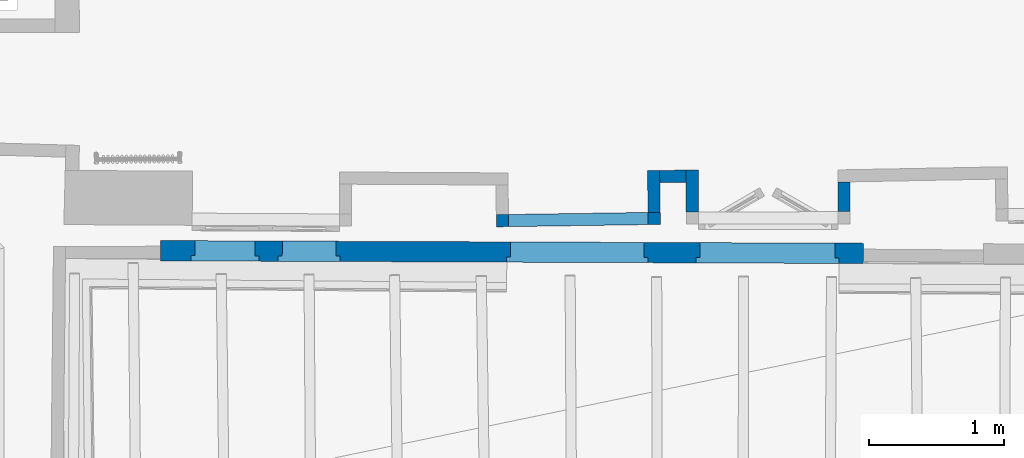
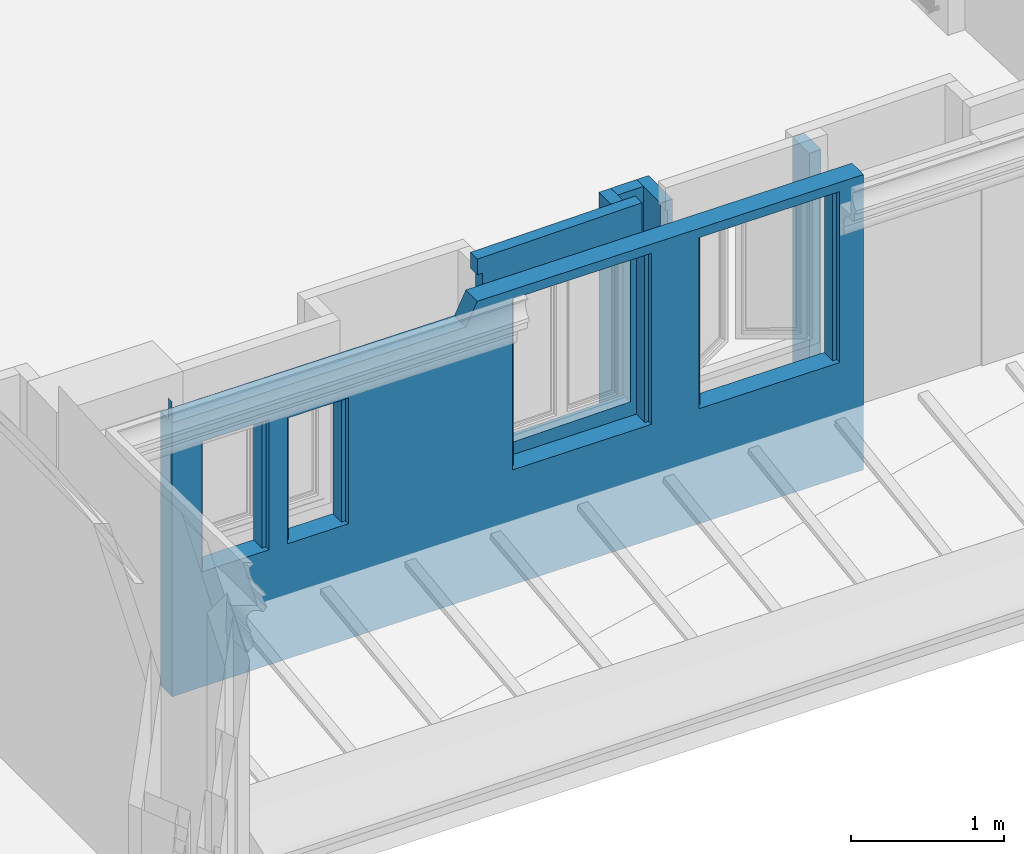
# One storey, part 7 of 72: 6 walls, 5 openings.
"""IFC2X3 building model written with IfcOpenShell, lengths in centimetres."""

from ifc_helpers import new_model, entity, si_unit, converted_unit, direction, frame, origin, origin_with_axes, origin_2d_with_axis, place, context, subcontext, project, spatial, polyline, rectangle, outline, extrude, clip, bounded_halfspace, faceted_brep, shape, material, layer, layer_set, layer_usage, type_object, element, save


model = new_model("IFC2X3")

# Units and contexts
model_context = context("Model", 3, precision=0.0001, world=origin(), true_north=direction((0.225632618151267, 0.974212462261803, 0.0)))
body_context = subcontext(model_context, "Body", "Model", "MODEL_VIEW")
footprint_context = subcontext(model_context, "FootPrint", "Model", "MODEL_VIEW")
profile_context = subcontext(model_context, "Profile", "Model", "MODEL_VIEW")
ifc_project = project(units=[si_unit("LENGTHUNIT", "METRE", prefix="CENTI"), si_unit("AREAUNIT", "SQUARE_METRE", prefix="CENTI"), si_unit("VOLUMEUNIT", "CUBIC_METRE", prefix="CENTI"), converted_unit("PLANEANGLEUNIT", "DEGREE", entity("IfcRatioMeasure", 0.0174532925), si_unit("PLANEANGLEUNIT", "RADIAN"), dimensions=[0, 0, 0, 0, 0, 0, 0])], contexts=[model_context])

# Site, building, storey
site_placement = place(None, origin_with_axes())
site = spatial("IfcSite", under=ifc_project, at=site_placement, Name="Default Site", CompositionType="ELEMENT")
building_placement = place(site_placement, origin_with_axes())
building = spatial("IfcBuilding", under=site, at=building_placement, Name="Default Building", CompositionType="ELEMENT")
storey_placement = place(building_placement, frame((0.0, 0.0, 853.910374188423), z_axis=(0.0, 0.0, 1.0), x_axis=(1.0, 0.0, 0.0)))
storey = spatial("IfcBuildingStorey", under=building, at=storey_placement, Name="Niveau 2", CompositionType="ELEMENT", Elevation=853.910374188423)

# Walls
ifc_material = material(Name="<aucun>")
ifc_layer_1 = layer(ifc_material, 9.0)
ifc_layer_set_1 = layer_set([ifc_layer_1], Name="default")
ifc_layer_usage_1 = layer_usage(ifc_layer_set_1, "AXIS2", "POSITIVE", -4.5)
wall_type_1 = type_object("IfcWallType", Name="default 90", PredefinedType="NOTDEFINED", material=ifc_layer_set_1)
wall_1_placement = place(storey_placement, frame((-226.443798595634, -681.598729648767, 1.4210854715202e-12), z_axis=(0.0, 0.0, 1.0), x_axis=(0.999964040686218, 0.00848040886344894, 0.0)))
element("IfcWallStandardCase", 1, at=wall_1_placement, inside=storey, type_object=wall_type_1, material=ifc_layer_usage_1, Name="Enveloppe 468990", context=body_context, shape_type="SweptSolid", body=[
    extrude(outline(polyline([(9.00018127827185, 4.49999999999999), (9.05730432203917, -4.4999999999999), (28.5450714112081, -4.4999999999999), (28.6000754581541, 4.49999999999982), (9.00018127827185, 4.49999999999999)])), frame((0.0, 0.0, -3.5527136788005e-13), z_axis=(0.0, 0.0, 1.0), x_axis=(1.0, 0.0, 0.0)), (0.0, 0.0, 1.0), 234.999999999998),
])
ifc_layer_usage_2 = layer_usage(ifc_layer_set_1, "AXIS2", "POSITIVE", -4.5)
wall_2_placement = place(storey_placement, frame((-81.1470777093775, -707.520176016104, 1.4210854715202e-12), z_axis=(0.0, 0.0, 1.0), x_axis=(-0.00236902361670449, 0.999997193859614, 0.0)))
element("IfcWallStandardCase", 2, at=wall_2_placement, inside=storey, type_object=wall_type_1, material=ifc_layer_usage_2, Name="Enveloppe 468778", context=body_context, shape_type="SweptSolid", body=[
    extrude(outline(polyline([(21.8595797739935, 4.49999999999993), (8.88178419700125e-14, 4.49999999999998), (0.0, -4.49999999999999), (22.0064733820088, -4.50000000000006), (21.8595797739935, 4.49999999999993)])), origin_with_axes(), (0.0, 0.0, 1.0), 234.999999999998),
])
ifc_layer_usage_3 = layer_usage(ifc_layer_set_1, "AXIS2", "POSITIVE", -4.5)
wall_3_placement = place(storey_placement, frame((-193.309627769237, -707.785892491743, 1.4210854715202e-12), z_axis=(0.0, 0.0, 1.0), x_axis=(-0.00236902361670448, 0.999997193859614, 0.0)))
element("IfcWallStandardCase", 3, at=wall_3_placement, inside=storey, type_object=wall_type_1, material=ifc_layer_usage_3, Name="Enveloppe 468852", context=body_context, shape_type="SweptSolid", body=[
    extrude(outline(polyline([(30.9402887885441, 4.50000000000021), (0.0, 4.49999999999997), (0.0, -4.50000000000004), (30.9952928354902, -4.49999999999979), (30.9402887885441, 4.50000000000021)])), frame((0.0, 0.0, -1.77635683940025e-13), z_axis=(0.0, 0.0, 1.0), x_axis=(1.0, 0.0, 0.0)), (0.0, 0.0, 1.0), 234.999999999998),
])
ifc_layer_usage_4 = layer_usage(ifc_layer_set_1, "AXIS2", "POSITIVE", -4.5)
wall_4_placement = place(storey_placement, frame((-221.389379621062, -717.027773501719, -1.95399252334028e-11), z_axis=(0.0, 0.0, 1.0), x_axis=(-0.0148268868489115, 0.999890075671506, 0.0)))
element("IfcWallStandardCase", 4, at=wall_4_placement, inside=storey, type_object=wall_type_1, material=ifc_layer_usage_4, Name="Enveloppe 468287", context=body_context, shape_type="SweptSolid", body=[
    extrude(outline(polyline([(40.0000000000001, 4.50000000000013), (9.00000000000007, 4.50000000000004), (9.00000000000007, -4.49999999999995), (39.9428769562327, -4.49999999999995), (40.0000000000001, 4.50000000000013)])), frame((0.0, 0.0, 1.98951966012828e-11), z_axis=(0.0, 0.0, 1.0), x_axis=(1.0, 0.0, 0.0)), (0.0, 0.0, 1.0), 234.999999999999),
])

# Wall, opening
ifc_layer_usage_5 = layer_usage(ifc_layer_set_1, "AXIS2", "POSITIVE", -4.5)
wall_5_placement = place(storey_placement, frame((-341.950629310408, -714.315023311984, 1.4210854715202e-12), z_axis=(0.0, 0.0, 1.0), x_axis=(0.999890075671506, 0.0148268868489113, 0.0)))
wall_5 = element("IfcWallStandardCase", 5, at=wall_5_placement, inside=storey, type_object=wall_type_1, material=ifc_layer_usage_5, Name="Enveloppe 158783", context=body_context, shape_type="Clipping", body=[
    clip(extrude(rectangle(XDim=125.007775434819, YDim=9.00000000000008, at=origin_2d_with_axis()), frame((62.5038877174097, 1.77635683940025e-13, -1.06581410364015e-12), z_axis=(0.0, 0.0, 1.0), x_axis=(1.0, 2.62290189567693e-15, 0.0)), (0.0, 0.0, 1.0), 247.500000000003), bounded_halfspace(frame((0.0, 4.50000000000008, 234.999999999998), z_axis=(0.0, 0.0, 1.0), x_axis=(1.0, -6.38551711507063e-15, 0.0)), True, frame((0.0, 4.50000000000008, 234.999999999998), z_axis=(0.0, 0.0, 1.0), x_axis=(1.0, 0.0, 0.0)), polyline([(0.0, -8.99999999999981), (0.0, 0.0), (3.84491063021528, 8.88178419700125e-14), (3.84491063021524, -8.99999999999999), (0.0, -8.99999999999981)]))),
])
opening_1_placement = place(wall_5_placement, frame((12.8449106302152, 0.0, 92.2964592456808), z_axis=(0.0, 0.0, 1.0), x_axis=(1.0, 2.62290189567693e-15, 0.0)))
cartesian_point_1 = entity("IfcCartesianPoint", [0.0, 1.77635683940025e-13, 130.0])
cartesian_point_2 = entity("IfcCartesianPoint", [103.162864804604, 4.50000000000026])
element("IfcOpeningElement", 6, at=opening_1_placement, cuts=wall_5, Name="4294966444_11", ObjectType="Opening", shapes=[
    shape(body_context, "Body", "SweptSolid", [extrude(outline(polyline([(0.0, 130.0), (0.0, 0.0), (103.162864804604, 0.0), (103.162864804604, 130.0), (0.0, 130.0)])), frame((0.0, 14.5, 0.0), z_axis=(0.0, -1.0, 0.0), x_axis=(1.0, 0.0, 0.0)), (0.0, 0.0, 1.0), 29.0)]),
    shape(profile_context, "Profile", "GeometricCurveSet", [entity("IfcGeometricCurveSet", [entity("IfcPolyline", [cartesian_point_1, entity("IfcCartesianPoint", [0.0, 1.77635683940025e-13, 0.0]), entity("IfcCartesianPoint", [103.162864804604, 1.77635683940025e-13, 0.0]), entity("IfcCartesianPoint", [103.162864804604, 1.77635683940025e-13, 130.0]), cartesian_point_1])])]),
    shape(footprint_context, "FootPrint", "GeometricCurveSet", [entity("IfcGeometricCurveSet", [entity("IfcPolyline", [cartesian_point_2, entity("IfcCartesianPoint", [0.0, 4.50000000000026]), entity("IfcCartesianPoint", [-4.44089209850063e-14, -4.49999999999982]), entity("IfcCartesianPoint", [103.162864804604, -4.4999999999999]), cartesian_point_2])])]),
])

# Wall, openings
ifc_layer_2 = layer(ifc_material, 15.0)
ifc_layer_set_2 = layer_set([ifc_layer_2], Name="default")
ifc_layer_usage_6 = layer_usage(ifc_layer_set_2, "AXIS2", "POSITIVE", -7.5)
wall_type_2 = type_object("IfcWallType", Name="default 150", PredefinedType="NOTDEFINED", material=ifc_layer_set_2)
wall_6_placement = place(storey_placement, frame((-66.9901047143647, -738.378594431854, 1.4210854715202e-12), z_axis=(0.0, 0.0, 1.0), x_axis=(-0.999992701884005, 0.00382049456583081, 0.0)))
solid = clip(clip(clip(clip(clip(clip(clip(clip(extrude(outline(polyline([(519.260604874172, 7.4991784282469), (-8.88178419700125e-14, 7.50000000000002), (-1.11022302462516e-14, 5.86126942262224), (-0.0670317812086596, 5.86101332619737), (-0.0999964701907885, -3.13917299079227), (-7.7715611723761e-14, -3.13879095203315), (-8.88178419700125e-14, -7.50000000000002), (519.260601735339, -7.50000000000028), (519.260604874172, 7.4991784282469)])), frame((0.0, 0.0, -1.77635683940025e-13), z_axis=(0.0, 0.0, 1.0), x_axis=(1.0, 0.0, 0.0)), (0.0, 0.0, 1.0), 235.000000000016), bounded_halfspace(frame((519.260601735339, -7.24504197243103, 217.940554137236), z_axis=(0.0017108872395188, -8.69055803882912e-19, -0.999998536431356), x_axis=(0.999998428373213, -0.000464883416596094, 0.00171088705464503)), True, frame((519.260601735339, -7.24504197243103, 217.940554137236), z_axis=(0.0, 0.0, 1.0), x_axis=(1.0, 0.0, 0.0)), polyline([(-150.593841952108, 14.7450419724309), (-150.510298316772, 0.0699698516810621), (8.88178419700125e-14, 0.0), (-1.77635683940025e-13, 12.925260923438), (-0.00234022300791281, 9.96600977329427), (-1.77635683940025e-13, 14.7450419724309), (-150.593841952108, 14.7450419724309)]))), bounded_halfspace(frame((519.260601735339, -7.50000000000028, 217.940554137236), z_axis=(0.0017108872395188, -8.69055803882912e-19, -0.999998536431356), x_axis=(0.000464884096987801, 0.999999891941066, 7.95365466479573e-07)), True, frame((519.260601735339, -7.50000000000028, 217.940554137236), z_axis=(0.0, 0.0, 1.0), x_axis=(1.0, 0.0, 0.0)), polyline([(-220.735865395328, -8.88178419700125e-14), (8.88178419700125e-14, 0.0), (1.77635683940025e-13, 0.254958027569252), (-153.438909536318, 0.326289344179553), (-153.436898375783, 4.65244360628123), (-200.431244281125, 4.97370651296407), (-200.433394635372, 0.348136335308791), (-220.735865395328, 0.357574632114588), (-220.735865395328, -8.88178419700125e-14)]))), bounded_halfspace(frame((368.750303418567, -7.17507212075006, 217.683047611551), z_axis=(0.0017108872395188, -8.69055803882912e-19, -0.999998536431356), x_axis=(-0.0056928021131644, 0.999983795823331, -9.73975674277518e-06)), True, frame((368.750303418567, -7.17507212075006, 217.683047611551), z_axis=(0.0, 0.0, 1.0), x_axis=(1.0, 0.0, 0.0)), polyline([(-2.92861121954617, 0.00136146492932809), (0.0, 8.88178419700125e-14), (-0.0835436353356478, 14.6750721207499), (-2.92178964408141, 14.6750721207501), (-2.92861121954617, 0.00136146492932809)]))), bounded_halfspace(frame((519.260601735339, 5.6802189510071, 217.940554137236), z_axis=(0.0017108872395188, -8.69055803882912e-19, -0.999998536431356), x_axis=(0.00079081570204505, 0.999999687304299, 1.35299847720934e-06)), True, frame((519.260601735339, 5.6802189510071, 217.940554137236), z_axis=(0.0, 0.0, 1.0), x_axis=(1.0, 0.0, 0.0)), polyline([(-0.00234022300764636, -2.95925115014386), (-0.000964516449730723, -5.14006330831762e-06), (-0.00234022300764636, -2.95925115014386)]))), bounded_halfspace(frame((519.260601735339, -3.3199088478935, 217.940554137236), z_axis=(0.0017108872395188, -8.69055803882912e-19, -0.999998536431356), x_axis=(-9.87447970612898e-15, 1.0, 0.0)), True, frame((519.260601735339, -3.3199088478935, 217.940554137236), z_axis=(0.0, 0.0, 1.0), x_axis=(1.0, 0.0, 0.0)), polyline([(8.88178419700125e-14, 0.0), (8.88178419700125e-14, 3.57486930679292), (8.88178419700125e-14, 0.0)]))), bounded_halfspace(frame((356.308816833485, 5.96729343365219, 217.661761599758), z_axis=(0.0017108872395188, -8.69055803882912e-19, -0.999998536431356), x_axis=(0.00697363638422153, -0.999975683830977, 1.19311229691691e-05)), True, frame((356.308816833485, 5.96729343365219, 217.661761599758), z_axis=(0.0, 0.0, 1.0), x_axis=(1.0, 0.0, 0.0)), polyline([(-27.6428126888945, -0.192775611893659), (-27.5844527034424, -8.56123119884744), (-0.00406763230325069, -8.7497763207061), (8.88178419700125e-14, 0.0), (-27.6428126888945, -0.192775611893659)]))), bounded_halfspace(frame((365.827887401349, 6.1526253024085, 217.678047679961), z_axis=(0.0017108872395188, -8.69055803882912e-19, -0.999998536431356), x_axis=(-0.000464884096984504, -0.999999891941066, -7.95365445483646e-07)), True, frame((365.827887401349, 6.1526253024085, 217.678047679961), z_axis=(0.0, 0.0, 1.0), x_axis=(1.0, 0.0, 0.0)), polyline([(-9.52313820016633, -8.93510818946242), (-0.0041840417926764, -9.00018169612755), (8.88178419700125e-14, 0.0), (-9.51895415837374, 0.0650735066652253), (-9.52313820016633, -8.93510818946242)]))), bounded_halfspace(frame((328.724364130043, -2.59393776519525, 217.614567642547), z_axis=(0.0017108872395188, -8.69055803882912e-19, -0.999998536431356), x_axis=(-0.999974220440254, -0.00697362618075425, -0.00171084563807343)), True, frame((328.724364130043, -2.59393776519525, 217.614567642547), z_axis=(0.0, 0.0, 1.0), x_axis=(1.0, 0.0, 0.0)), polyline([(-9.89500667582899, 0.0676442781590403), (0.0, 0.0), (-0.0583599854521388, 8.36845558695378), (-0.0955948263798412, 8.36819591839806), (-0.09559482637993, 9.00086380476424), (-9.89082263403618, 9.06782597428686), (-9.89500667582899, 0.0676442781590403)])))
wall_6 = element("IfcWallStandardCase", 7, at=wall_6_placement, inside=storey, type_object=wall_type_2, material=ifc_layer_usage_6, Name="Enveloppe 748554", context=body_context, shape_type="Clipping", body=[
    clip(clip(clip(clip(clip(clip(solid, bounded_halfspace(frame((356.308933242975, 6.21769880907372, 217.661761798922), z_axis=(0.0017108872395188, -8.69055803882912e-19, -0.999998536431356), x_axis=(0.999974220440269, 0.00697362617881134, 0.00171084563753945)), True, frame((356.308933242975, 6.21769880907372, 217.661761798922), z_axis=(0.0, 0.0, 1.0), x_axis=(1.0, 0.0, 0.0)), polyline([(-27.6801639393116, -0.443440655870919), (-0.00011640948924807, -0.250405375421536), (0.0, 0.0), (-27.6801639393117, 0.189227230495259), (-27.6801639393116, -0.443440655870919)]))), bounded_halfspace(frame((365.828513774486, 7.49999999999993, 217.678048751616), z_axis=(0.0017108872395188, -8.69055803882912e-19, -0.999998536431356), x_axis=(-0.000464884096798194, -0.999999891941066, -7.95365325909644e-07)), True, frame((365.828513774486, 7.49999999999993, 217.678048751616), z_axis=(0.0, 0.0, 1.0), x_axis=(1.0, 0.0, 0.0)), polyline([(-46.9949722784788, -1.02611179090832), (-0.000626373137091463, -1.34737469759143), (0.0, 8.88178419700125e-14), (-46.9944952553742, -8.88178419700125e-14), (-46.9949722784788, -1.02611179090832)]))), bounded_halfspace(frame((519.260601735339, -7.24504197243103, 217.940554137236), z_axis=(0.0017108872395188, -8.69055803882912e-19, -0.999998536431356), x_axis=(0.00131169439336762, -0.999999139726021, 2.24416451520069e-06)), True, frame((519.260601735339, -7.24504197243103, 217.940554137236), z_axis=(0.0, 0.0, 1.0), x_axis=(1.0, 0.0, 0.0)), polyline([(8.88178419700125e-14, 0.0), (-0.00514854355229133, 3.92510568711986), (8.88178419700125e-14, 0.0)]))), bounded_halfspace(frame((290.016167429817, -7.13846986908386, 235.001737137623), z_axis=(-0.898731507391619, -5.19593049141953e-15, -0.438499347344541), x_axis=(0.438499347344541, 8.1748843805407e-16, -0.898731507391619)), True, frame((290.016167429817, -7.13846986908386, 235.001737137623), z_axis=(0.0, 0.0, 1.0), x_axis=(1.0, 0.0, 0.0)), polyline([(0.00165494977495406, -0.36153013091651), (8.50856891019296, -0.36153013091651), (8.50856891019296, -0.0039554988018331), (4.44089209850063e-14, -8.88178419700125e-14), (0.00165494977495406, -0.36153013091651)]))), bounded_halfspace(frame((318.834018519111, 7.49999999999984, 217.597646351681), z_axis=(0.0017108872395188, -8.69055803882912e-19, -0.999998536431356), x_axis=(0.000464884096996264, 0.999999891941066, 7.95365434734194e-07)), True, frame((318.834018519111, 7.49999999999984, 217.597646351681), z_axis=(0.0, 0.0, 1.0), x_axis=(1.0, 0.0, 0.0)), polyline([(-20.3092821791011, -14.6424253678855), (-0.00681141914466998, -14.6518636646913), (0.0, 0.0), (-20.309282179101, 8.88178419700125e-14), (-20.3092821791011, -14.6424253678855)]))), bounded_halfspace(frame((290.017014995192, -7.13847026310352, 235.000000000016), z_axis=(-0.898731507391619, -5.19593049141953e-15, -0.438499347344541), x_axis=(-0.438499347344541, -2.5352983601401e-15, 0.898731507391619)), True, frame((290.017014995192, -7.13847026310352, 235.000000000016), z_axis=(0.0, 0.0, 1.0), x_axis=(1.0, 0.0, 0.0)), polyline([(-4.44089209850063e-14, 0.0), (8.50772134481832, -0.00395510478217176), (8.50772134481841, 14.6384702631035), (1.33226762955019e-13, 14.6384702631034), (-4.44089209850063e-14, 0.0)]))),
])
opening_2_placement = place(wall_6_placement, frame((386.763612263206, -1.13686837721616e-13, 91.5999999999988), z_axis=(0.0, 0.0, 1.0), x_axis=(1.0, -4.562322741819e-16, 0.0)))
cartesian_point_3 = entity("IfcCartesianPoint", [3.5527136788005e-13, -8.88178419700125e-14, 99.9999999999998])
cartesian_point_4 = entity("IfcCartesianPoint", [45.5994283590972, 7.49999999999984])
element("IfcOpeningElement", 8, at=opening_2_placement, cuts=wall_6, Name="Baie 750236", ObjectType="Opening", shapes=[
    shape(body_context, "Body", "Brep", [faceted_brep([(-1.42633062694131e-05, 27.500002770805, 100.000013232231), (45.599445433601, 27.5000027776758, 100.000013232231), (45.599445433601, 27.5000027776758, 1.32322309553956e-05), (-1.42633062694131e-05, 27.500002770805, 1.32322309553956e-05), (3.00001375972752, -27.5000187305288, 1.32322309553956e-05), (42.5994351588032, -27.5000187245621, 1.32322309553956e-05), (42.5994351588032, -27.5000187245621, 100.000013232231), (3.00001375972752, -27.5000187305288, 100.000013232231), (3.00001375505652, 3.50001091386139, 100.000013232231), (3.00001375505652, 3.50001091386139, 1.32322309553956e-05), (2.99997698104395, 3.50001091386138, 1.32322309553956e-05), (2.99997698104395, 3.50001091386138, 100.000013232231), (-1.81440126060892e-05, 3.50001091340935, 100.000013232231), (-1.81440126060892e-05, 3.50001091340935, 1.32322309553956e-05), (-1.81440126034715e-05, 3.49999354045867, 1.32322309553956e-05), (-1.81440126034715e-05, 3.49999354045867, 100.000013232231), (-1.81476288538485e-05, 27.500002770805, 100.000013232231), (-1.81476288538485e-05, 27.500002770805, 1.32322309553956e-05), (42.5994351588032, -27.4999821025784, 1.32322309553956e-05), (45.599445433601, 27.4999789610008, 1.32322309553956e-05), (45.5994413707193, 3.50001741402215, 1.32322309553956e-05), (42.5994462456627, 3.50000004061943, 1.32322309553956e-05), (42.5994351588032, -27.4999821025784, 100.000013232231), (42.5994351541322, 3.50000004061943, 1.32322309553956e-05), (42.5994351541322, 3.50000004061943, 100.000013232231), (42.5994462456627, 3.50000004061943, 100.000013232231), (45.5994413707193, 3.50000004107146, 1.32322309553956e-05), (45.5994413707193, 3.50000004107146, 100.000013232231), (45.5994413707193, 3.50001741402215, 100.000013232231), (45.5994413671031, 27.4999789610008, 1.32322309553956e-05), (45.5994413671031, 27.4999789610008, 100.000013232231), (45.599445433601, 27.4999789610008, 100.000013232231)], [[[0, 1, 2, 3]], [[4, 5, 6, 7]], [[4, 7, 8, 9]], [[10, 11, 12, 13]], [[14, 15, 16, 17]], [[18, 4, 10, 14, 3, 19, 20, 21]], [[22, 18, 23, 24]], [[25, 21, 26, 27]], [[28, 20, 29, 30]], [[25, 28, 31, 0, 15, 11, 7, 22]]])]),
    shape(profile_context, "Profile", "GeometricCurveSet", [entity("IfcGeometricCurveSet", [entity("IfcPolyline", [cartesian_point_3, entity("IfcCartesianPoint", [3.5527136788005e-13, -8.88178419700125e-14, -1.77635683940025e-13]), entity("IfcCartesianPoint", [45.5994283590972, -1.77635683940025e-13, -1.77635683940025e-13]), entity("IfcCartesianPoint", [45.5994283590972, -1.77635683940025e-13, 99.9999999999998]), cartesian_point_3])])]),
    shape(footprint_context, "FootPrint", "GeometricCurveSet", [entity("IfcGeometricCurveSet", [entity("IfcPolyline", [cartesian_point_4, entity("IfcCartesianPoint", [3.5527136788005e-13, 7.49999999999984]), entity("IfcCartesianPoint", [4.44089209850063e-13, -7.5000000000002]), entity("IfcCartesianPoint", [45.5994283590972, -7.5000000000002]), cartesian_point_4])])]),
])
opening_3_placement = place(wall_6_placement, frame((158.978936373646, 0.0, 91.5999999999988), z_axis=(0.0, 0.0, 1.0), x_axis=(1.0, -4.562322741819e-16, 0.0)))
cartesian_point_5 = entity("IfcCartesianPoint", [-4.44089209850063e-14, -8.88178419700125e-14, 136.089378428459])
cartesian_point_6 = entity("IfcCartesianPoint", [104.566999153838, 7.50000000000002])
element("IfcOpeningElement", 9, at=opening_3_placement, cuts=wall_6, Name="Baie 1905136", ObjectType="Opening", shapes=[
    shape(body_context, "Body", "Brep", [faceted_brep([(1.07640135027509e-05, 27.4999805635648, 136.089338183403), (104.566990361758, 27.4999805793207, 136.089338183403), (104.566990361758, 27.4999805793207, 1.32322309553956e-05), (1.07640135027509e-05, 27.4999805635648, 1.32322309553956e-05), (2.99999092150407, -27.4999934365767, 1.32322309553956e-05), (101.567003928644, -27.4999934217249, 1.32322309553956e-05), (101.567003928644, -27.4999934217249, 136.089338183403), (2.99999092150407, -27.4999934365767, 136.089338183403), (2.99999091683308, 3.49998870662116, 136.089338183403), (2.99999091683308, 3.49998870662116, 1.32322309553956e-05), (3.00000200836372, 3.49998870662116, 1.32322309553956e-05), (3.00000200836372, 3.49998870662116, 136.089338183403), (6.70113178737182e-06, 3.49998870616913, 136.089338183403), (6.70113178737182e-06, 3.49998870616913, 1.32322309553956e-05), (6.70113178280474e-06, 3.50001901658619, 1.32322309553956e-05), (6.70113178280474e-06, 3.50001901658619, 136.089338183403), (6.69751553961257e-06, 27.4999805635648, 136.089338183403), (6.69751553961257e-06, 27.4999805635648, 1.32322309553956e-05), (101.567003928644, -27.4999770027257, 1.32322309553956e-05), (104.566990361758, 27.4999839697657, 1.32322309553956e-05), (104.56701014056, 3.50002251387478, 1.32322309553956e-05), (101.566991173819, 3.50000504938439, 1.32322309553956e-05), (101.567003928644, -27.4999770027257, 136.089338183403), (101.567003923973, 3.50000504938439, 1.32322309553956e-05), (101.567003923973, 3.50000504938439, 136.089338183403), (101.566991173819, 3.50000504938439, 136.089338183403), (104.56701014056, 3.50000504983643, 1.32322309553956e-05), (104.56701014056, 3.50000504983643, 136.089338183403), (104.56701014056, 3.50002251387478, 136.089338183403), (104.567010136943, 27.4999839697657, 1.32322309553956e-05), (104.567010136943, 27.4999839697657, 136.089338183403), (104.566990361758, 27.4999839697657, 136.089338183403)], [[[0, 1, 2, 3]], [[4, 5, 6, 7]], [[4, 7, 8, 9]], [[10, 11, 12, 13]], [[14, 15, 16, 17]], [[18, 4, 10, 14, 3, 19, 20, 21]], [[22, 18, 23, 24]], [[25, 21, 26, 27]], [[28, 20, 29, 30]], [[25, 28, 31, 0, 15, 11, 7, 22]]])]),
    shape(profile_context, "Profile", "GeometricCurveSet", [entity("IfcGeometricCurveSet", [entity("IfcPolyline", [cartesian_point_5, entity("IfcCartesianPoint", [-4.44089209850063e-14, -8.88178419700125e-14, -1.77635683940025e-13]), entity("IfcCartesianPoint", [104.566999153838, 0.0, -1.77635683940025e-13]), entity("IfcCartesianPoint", [104.566999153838, 0.0, 136.089378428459]), cartesian_point_5])])]),
    shape(footprint_context, "FootPrint", "GeometricCurveSet", [entity("IfcGeometricCurveSet", [entity("IfcPolyline", [cartesian_point_6, entity("IfcCartesianPoint", [4.44089209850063e-14, 7.49999999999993]), entity("IfcCartesianPoint", [0.0, -7.50000000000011]), entity("IfcCartesianPoint", [104.566999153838, -7.50000000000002]), cartesian_point_6])])]),
])
opening_4_placement = place(wall_6_placement, frame((17.8188966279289, 0.0, 91.5999999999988), z_axis=(0.0, 0.0, 1.0), x_axis=(1.0, -4.562322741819e-16, 0.0)))
cartesian_point_7 = entity("IfcCartesianPoint", [0.0, -8.88178419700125e-14, 136.089378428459])
cartesian_point_8 = entity("IfcCartesianPoint", [105.809536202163, 7.49999999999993])
element("IfcOpeningElement", 10, at=opening_4_placement, cuts=wall_6, Name="Baie 1905137", ObjectType="Opening", shapes=[
    shape(body_context, "Body", "Brep", [faceted_brep([(-1.55327061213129e-06, 27.4999821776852, 136.089338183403), (105.809541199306, 27.4999821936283, 136.089338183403), (105.809541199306, 27.4999821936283, 1.32322309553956e-05), (-1.55327061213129e-06, 27.4999821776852, 1.32322309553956e-05), (3.0000024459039, -27.4999917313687, 1.32322309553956e-05), (102.809531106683, -27.4999917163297, 1.32322309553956e-05), (102.809531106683, -27.4999917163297, 136.089338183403), (3.0000024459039, -27.4999917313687, 136.089338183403), (3.00000244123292, 3.4999903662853, 136.089338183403), (3.00000244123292, 3.4999903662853, 1.32322309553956e-05), (3.00000161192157, 3.4999903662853, 1.32322309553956e-05), (3.00000161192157, 3.4999903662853, 136.089338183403), (3.44268651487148e-07, 3.49999036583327, 136.089338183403), (3.44268651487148e-07, 3.49999036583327, 1.32322309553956e-05), (3.44268646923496e-07, 3.5000206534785, 1.32322309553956e-05), (3.44268646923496e-07, 3.5000206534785, 136.089338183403), (3.40652403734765e-07, 27.4999821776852, 136.089338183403), (3.40652403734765e-07, 27.4999821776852, 1.32322309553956e-05), (102.809531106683, -27.4999966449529, 1.32322309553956e-05), (105.809541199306, 27.5000121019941, 1.32322309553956e-05), (105.809537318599, 3.50000287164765, 1.32322309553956e-05), (102.809542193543, 3.49998549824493, 1.32322309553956e-05), (102.809531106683, -27.4999966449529, 136.089338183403), (102.809531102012, 3.49998549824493, 1.32322309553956e-05), (102.809531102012, 3.49998549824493, 136.089338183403), (102.809542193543, 3.49998549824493, 136.089338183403), (105.809537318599, 3.49998549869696, 1.32322309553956e-05), (105.809537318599, 3.49998549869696, 136.089338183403), (105.809537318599, 3.50000287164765, 136.089338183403), (105.809537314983, 27.5000121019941, 1.32322309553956e-05), (105.809537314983, 27.5000121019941, 136.089338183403), (105.809541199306, 27.5000121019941, 136.089338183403)], [[[0, 1, 2, 3]], [[4, 5, 6, 7]], [[4, 7, 8, 9]], [[10, 11, 12, 13]], [[14, 15, 16, 17]], [[18, 4, 10, 14, 3, 19, 20, 21]], [[22, 18, 23, 24]], [[25, 21, 26, 27]], [[28, 20, 29, 30]], [[25, 28, 31, 0, 15, 11, 7, 22]]])]),
    shape(profile_context, "Profile", "GeometricCurveSet", [entity("IfcGeometricCurveSet", [entity("IfcPolyline", [cartesian_point_7, entity("IfcCartesianPoint", [0.0, -8.88178419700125e-14, -1.77635683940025e-13]), entity("IfcCartesianPoint", [105.809536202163, -8.88178419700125e-14, -1.77635683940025e-13]), entity("IfcCartesianPoint", [105.809536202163, -8.88178419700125e-14, 136.089378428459]), cartesian_point_7])])]),
    shape(footprint_context, "FootPrint", "GeometricCurveSet", [entity("IfcGeometricCurveSet", [entity("IfcPolyline", [cartesian_point_8, entity("IfcCartesianPoint", [-1.11022302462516e-14, 7.49999999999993]), entity("IfcCartesianPoint", [0.0, -7.50000000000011]), entity("IfcCartesianPoint", [105.809536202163, -7.50000000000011]), cartesian_point_8])])]),
])
opening_5_placement = place(wall_6_placement, frame((446.535197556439, -1.13686837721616e-13, 91.6084209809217), z_axis=(0.0, 0.0, 1.0), x_axis=(1.0, -4.562322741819e-16, 0.0)))
cartesian_point_9 = entity("IfcCartesianPoint", [4.44089209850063e-13, -8.88178419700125e-14, 103.583029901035])
cartesian_point_10 = entity("IfcCartesianPoint", [50.3693333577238, 7.49999999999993])
element("IfcOpeningElement", 11, at=opening_5_placement, cuts=wall_6, Name="Baie 750235", ObjectType="Opening", shapes=[
    shape(body_context, "Body", "Brep", [faceted_brep([(-7.02445461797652e-06, 27.5000025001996, 103.583034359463), (50.3693372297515, 27.5000025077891, 103.583034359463), (50.3693372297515, 27.5000025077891, -1.54147073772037e-05), (-7.02445461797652e-06, 27.5000025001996, -1.54147073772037e-05), (3.00002099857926, -27.5000190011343, -1.54147073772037e-05), (47.369327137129, -27.5000189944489, -1.54147073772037e-05), (47.369327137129, -27.5000189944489, 103.583034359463), (3.00002099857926, -27.5000190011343, 103.583034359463), (3.00002099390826, 3.50001064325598, 103.583034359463), (3.00002099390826, 3.50001064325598, -1.54147073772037e-05), (2.99998421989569, 3.50001064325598, -1.54147073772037e-05), (2.99998421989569, 3.50001064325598, 103.583034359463), (-1.09051609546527e-05, 3.50001064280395, 103.583034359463), (-1.09051609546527e-05, 3.50001064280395, -1.54147073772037e-05), (-1.0905160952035e-05, 3.49999326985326, -1.54147073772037e-05), (-1.0905160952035e-05, 3.49999326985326, 103.583034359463), (-1.09087772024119e-05, 27.5000025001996, 103.583034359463), (-1.09087772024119e-05, 27.5000025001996, -1.54147073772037e-05), (47.369327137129, -27.5000219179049, -1.54147073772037e-05), (50.3693372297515, 27.4999868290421, -1.54147073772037e-05), (50.3693333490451, 3.49997759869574, -1.54147073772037e-05), (47.3693380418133, 3.50000790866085, -1.54147073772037e-05), (47.369327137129, -27.5000219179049, 103.583034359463), (47.369327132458, 3.50000790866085, -1.54147073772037e-05), (47.369327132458, 3.50000790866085, 103.583034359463), (47.3693380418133, 3.50000790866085, 103.583034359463), (50.3693333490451, 3.50000790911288, -1.54147073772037e-05), (50.3693333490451, 3.50000790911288, 103.583034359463), (50.3693333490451, 3.49997759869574, 103.583034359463), (50.3693333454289, 27.4999868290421, -1.54147073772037e-05), (50.3693333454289, 27.4999868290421, 103.583034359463), (50.3693372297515, 27.4999868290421, 103.583034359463)], [[[0, 1, 2, 3]], [[4, 5, 6, 7]], [[4, 7, 8, 9]], [[10, 11, 12, 13]], [[14, 15, 16, 17]], [[18, 4, 10, 14, 3, 19, 20, 21]], [[22, 18, 23, 24]], [[25, 21, 26, 27]], [[28, 20, 29, 30]], [[25, 28, 31, 0, 15, 11, 7, 22]]])]),
    shape(profile_context, "Profile", "GeometricCurveSet", [entity("IfcGeometricCurveSet", [entity("IfcPolyline", [cartesian_point_9, entity("IfcCartesianPoint", [4.44089209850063e-13, -8.88178419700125e-14, 0.0]), entity("IfcCartesianPoint", [50.3693333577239, -8.88178419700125e-14, 0.0]), entity("IfcCartesianPoint", [50.3693333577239, -8.88178419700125e-14, 103.583029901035]), cartesian_point_9])])]),
    shape(footprint_context, "FootPrint", "GeometricCurveSet", [entity("IfcGeometricCurveSet", [entity("IfcPolyline", [cartesian_point_10, entity("IfcCartesianPoint", [4.44089209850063e-13, 7.49999999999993]), entity("IfcCartesianPoint", [4.44089209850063e-13, -7.50000000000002]), entity("IfcCartesianPoint", [50.3693333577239, -7.50000000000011]), cartesian_point_10])])]),
])

save(model, "model.ifc")
